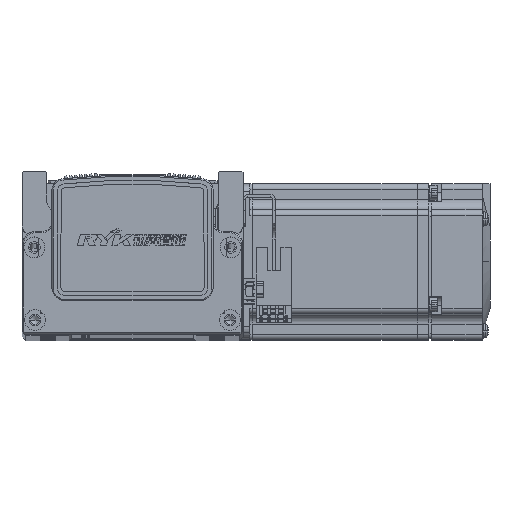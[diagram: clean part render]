
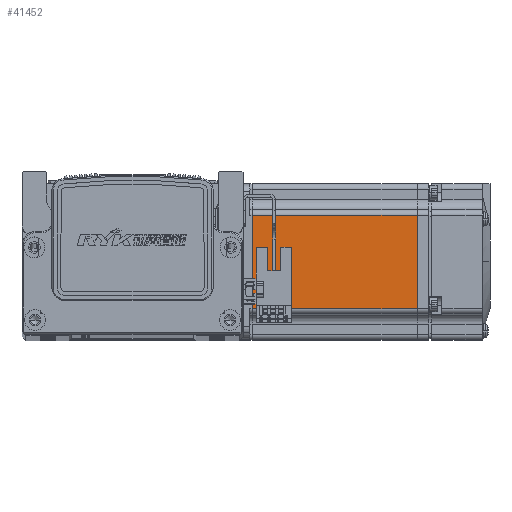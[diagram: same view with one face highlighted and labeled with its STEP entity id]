
A CAD part, top view. The second image highlights one B-rep face of the part: STEP entity #41452.
In plain terms, the highlighted planar face has unit normal (0, 0, 1) as drawn and (0, 0, -1) by its records, which use the part's own axes.
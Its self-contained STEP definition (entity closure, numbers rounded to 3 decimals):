
#8563 = EDGE_LOOP ( 'NONE', ( #9305, #9286, #9217, #9310 ) ) ;
#9217 = ORIENTED_EDGE ( 'NONE', *, *, #78619, .T. ) ;
#9286 = ORIENTED_EDGE ( 'NONE', *, *, #78627, .T. ) ;
#9305 = ORIENTED_EDGE ( 'NONE', *, *, #78677, .T. ) ;
#9310 = ORIENTED_EDGE ( 'NONE', *, *, #78607, .T. ) ;
#20897 = DIRECTION ( 'NONE',  ( 0., 0., -1. ) ) ;
#20899 = CARTESIAN_POINT ( 'NONE',  ( -6.5, 25., -30. ) ) ;
#20906 = DIRECTION ( 'NONE',  ( -1., 0., 0. ) ) ;
#20931 = PLANE ( 'NONE',  #44614 ) ;
#23492 = VERTEX_POINT ( 'NONE', #77236 ) ;
#23512 = VERTEX_POINT ( 'NONE', #77229 ) ;
#23520 = VERTEX_POINT ( 'NONE', #77194 ) ;
#23533 = VERTEX_POINT ( 'NONE', #77252 ) ;
#31805 = FACE_OUTER_BOUND ( 'NONE', #8563, .T. ) ;
#41452 = ADVANCED_FACE ( 'NONE', ( #31805 ), #20931, .T. ) ;
#44614 = AXIS2_PLACEMENT_3D ( 'NONE', #20899, #20897, #20906 ) ;
#54053 = LINE ( 'NONE', #67761, #54096 ) ;
#54056 = LINE ( 'NONE', #67724, #54098 ) ;
#54066 = VECTOR ( 'NONE', #67833, 1000. ) ;
#54091 = LINE ( 'NONE', #67887, #54066 ) ;
#54096 = VECTOR ( 'NONE', #67801, 1000. ) ;
#54098 = VECTOR ( 'NONE', #67808, 1000. ) ;
#54143 = VECTOR ( 'NONE', #67981, 1000. ) ;
#54164 = LINE ( 'NONE', #67912, #54143 ) ;
#67724 = CARTESIAN_POINT ( 'NONE',  ( -70.95, 25., -30. ) ) ;
#67761 = CARTESIAN_POINT ( 'NONE',  ( -6.5, 18., -30. ) ) ;
#67801 = DIRECTION ( 'NONE',  ( 1., 0., 0. ) ) ;
#67808 = DIRECTION ( 'NONE',  ( 0., 1., 0. ) ) ;
#67833 = DIRECTION ( 'NONE',  ( -1., 0., 0. ) ) ;
#67887 = CARTESIAN_POINT ( 'NONE',  ( -6.5, -18., -30. ) ) ;
#67912 = CARTESIAN_POINT ( 'NONE',  ( -7.75, 25., -30. ) ) ;
#67981 = DIRECTION ( 'NONE',  ( 0., -1., 0. ) ) ;
#77194 = CARTESIAN_POINT ( 'NONE',  ( -7.75, -18., -30. ) ) ;
#77229 = CARTESIAN_POINT ( 'NONE',  ( -7.75, 18., -30. ) ) ;
#77236 = CARTESIAN_POINT ( 'NONE',  ( -70.95, -18., -30. ) ) ;
#77252 = CARTESIAN_POINT ( 'NONE',  ( -70.95, 18., -30. ) ) ;
#78607 = EDGE_CURVE ( 'NONE', #23533, #23512, #54053, .T. ) ;
#78619 = EDGE_CURVE ( 'NONE', #23492, #23533, #54056, .T. ) ;
#78627 = EDGE_CURVE ( 'NONE', #23520, #23492, #54091, .T. ) ;
#78677 = EDGE_CURVE ( 'NONE', #23512, #23520, #54164, .T. ) ;
